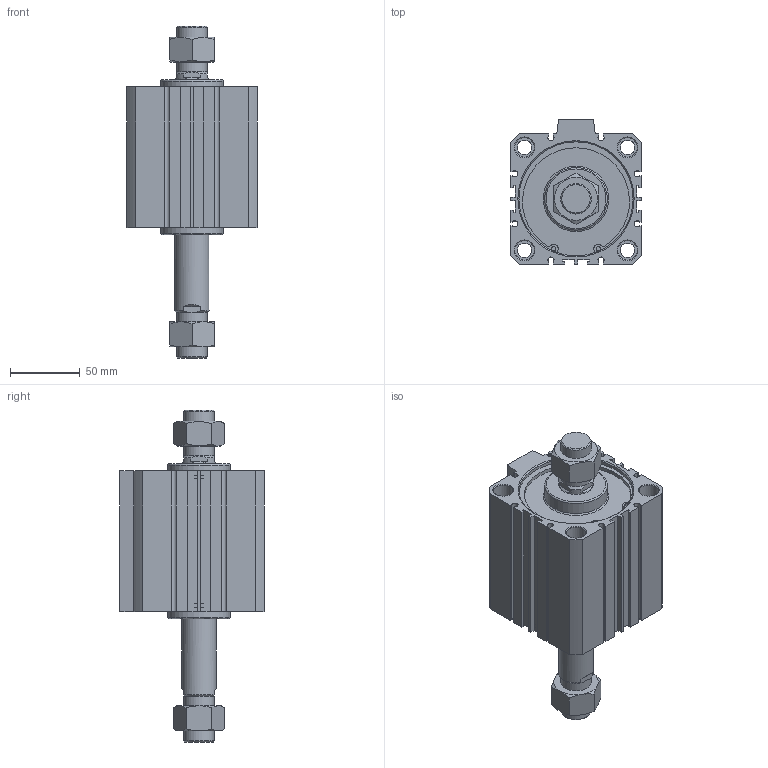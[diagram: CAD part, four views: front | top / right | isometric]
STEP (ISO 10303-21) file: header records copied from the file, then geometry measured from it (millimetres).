
FILE_DESCRIPTION((''),'2;1');
FILE_NAME('I:\3D電子目錄\氣缸\JDD\JDD-BS\JDD80-BS\JDD80x50-BS.stp','2007-02-28T08:41:41',('662F206'),(''),'Autodesk Inventor 10','Autodesk Inventor 10','');
FILE_SCHEMA(('AUTOMOTIVE_DESIGN { 1 0 10303 214 1 1 1 1 }'));
Length unit declared in the file: millimetre
Products named in the file (3): JDD80-BS; R 形環 82
Assembly tree (3 placements, depth 2):
  JDD80-BS
    JDD80-BS
    R 形環 82  x2
Bounding box: 94 x 104 x 238.7 mm (x, y, z)
Volume: 888723.8 mm3; surface area: 112363.9 mm2
Topology: 3 solids, 3 shells, 226 faces, 548 edges, 354 vertices
Faces by surface type: plane 130, cylinder 56, cone 36, bspline 2, torus 2
Full cylindrical faces by diameter (mm): 3.1 x4, 3.5 x2, 10.4 x4, 14 x8, 22 x4, 25 x2, 45 x2, 82 x4, 85.5 x2
Entity records: 6033 total; most frequent: CARTESIAN_POINT 1188, DIRECTION 994, ORIENTED_EDGE 916, EDGE_CURVE 458, AXIS2_PLACEMENT_3D 366, VERTEX_POINT 326, EDGE_LOOP 304, VECTOR 262
